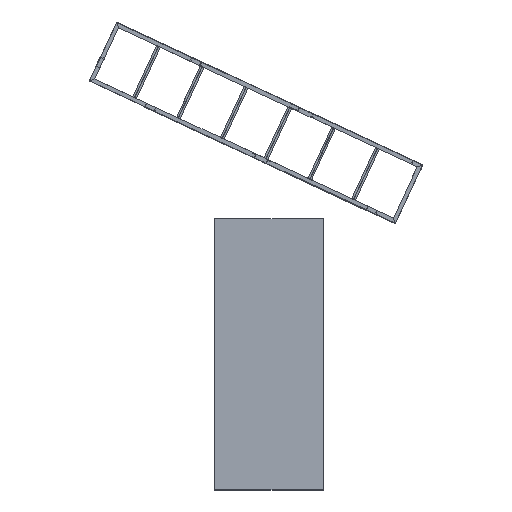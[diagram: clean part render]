
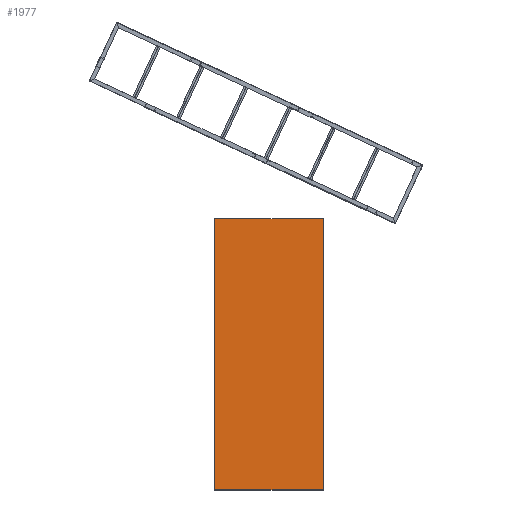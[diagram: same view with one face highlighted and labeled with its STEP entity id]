
A CAD part, top view. The second image highlights one B-rep face of the part: STEP entity #1977.
In plain terms, the highlighted planar face has unit normal (0, 0, 1).
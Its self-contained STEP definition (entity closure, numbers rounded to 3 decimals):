
#1977=ADVANCED_FACE('',(#2425),#2201,.T.);
#2201=PLANE('',#5968);
#2425=FACE_OUTER_BOUND('',#2649,.T.);
#2649=EDGE_LOOP('',(#3723,#3724,#3725,#3726));
#3723=ORIENTED_EDGE('',*,*,#4645,.F.);
#3724=ORIENTED_EDGE('',*,*,#4646,.F.);
#3725=ORIENTED_EDGE('',*,*,#4647,.F.);
#3726=ORIENTED_EDGE('',*,*,#4648,.F.);
#4103=VERTEX_POINT('',#8080);
#4104=VERTEX_POINT('',#8081);
#4105=VERTEX_POINT('',#8083);
#4106=VERTEX_POINT('',#8085);
#4645=EDGE_CURVE('',#4103,#4104,#5191,.T.);
#4646=EDGE_CURVE('',#4105,#4103,#5192,.T.);
#4647=EDGE_CURVE('',#4106,#4105,#5193,.T.);
#4648=EDGE_CURVE('',#4104,#4106,#5194,.T.);
#5191=LINE('',#8079,#5737);
#5192=LINE('',#8082,#5738);
#5193=LINE('',#8084,#5739);
#5194=LINE('',#8086,#5740);
#5737=VECTOR('',#6946,1.);
#5738=VECTOR('',#6947,1.);
#5739=VECTOR('',#6948,1.);
#5740=VECTOR('',#6949,1.);
#5968=AXIS2_PLACEMENT_3D('',#8087,#6950,#6951);
#6946=DIRECTION('',(-1.,0.,0.));
#6947=DIRECTION('',(0.,-1.,0.));
#6948=DIRECTION('',(1.,0.,0.));
#6949=DIRECTION('',(0.,1.,0.));
#6950=DIRECTION('',(0.,0.,1.));
#6951=DIRECTION('',(1.,0.,0.));
#8079=CARTESIAN_POINT('',(1000.,-5000.,1000.));
#8080=CARTESIAN_POINT('',(2000.,-5000.,1000.));
#8081=CARTESIAN_POINT('',(0.,-5000.,1000.));
#8082=CARTESIAN_POINT('',(2000.,-2500.,1000.));
#8083=CARTESIAN_POINT('',(2000.,0.,1000.));
#8084=CARTESIAN_POINT('',(1000.,0.,1000.));
#8085=CARTESIAN_POINT('',(0.,0.,1000.));
#8086=CARTESIAN_POINT('',(0.,-2500.,1000.));
#8087=CARTESIAN_POINT('',(1000.,-2500.,1000.));
